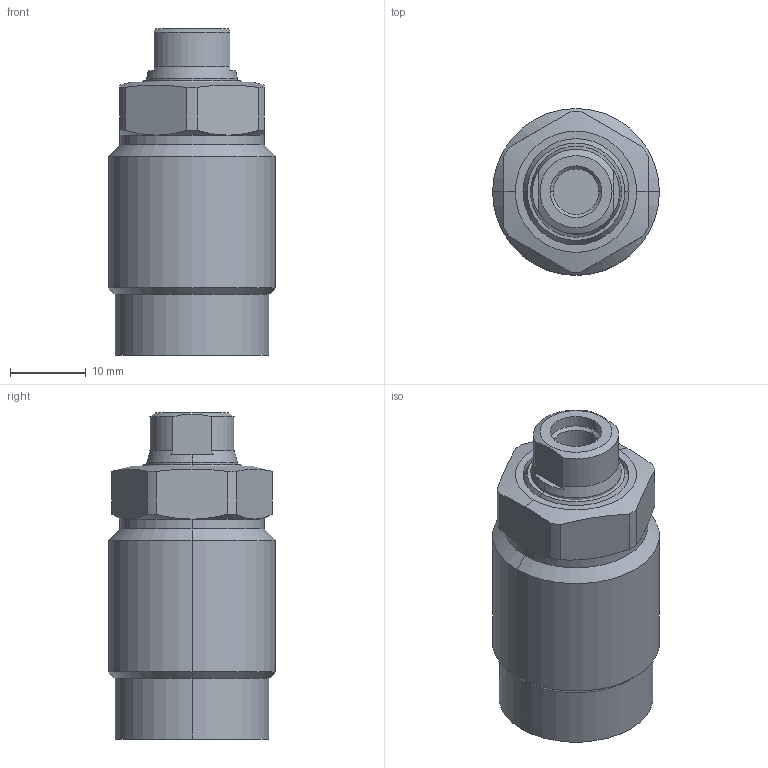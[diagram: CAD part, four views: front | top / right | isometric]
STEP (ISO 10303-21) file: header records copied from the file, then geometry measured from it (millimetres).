
FILE_DESCRIPTION((' '),'2;1');
FILE_NAME( 'TGP22-AM.x_t.stp', '2025-02-10T16:03:51', (' '), ('--- Datakit www.datakit.com---'), ' Datakit CrossCadWare V2024.1 Dec 21 2023', 'Mastercam 2025', ' ');
FILE_SCHEMA(('AUTOMOTIVE_DESIGN { 1 0 10303 214 1 1 1 1 }'));
Length unit declared in the file: millimetre
Products named in the file (1): TGP22-AM
Bounding box: 22 x 22 x 43 mm (x, y, z)
Volume: 13831.4 mm3; surface area: 4346.3 mm2
Topology: 2 solids, 2 shells, 82 faces, 189 edges, 118 vertices
Faces by surface type: cylinder 34, plane 22, cone 22, torus 4
Entity records: 2442 total; most frequent: CARTESIAN_POINT 536, DIRECTION 422, ORIENTED_EDGE 374, EDGE_CURVE 187, AXIS2_PLACEMENT_3D 180, VERTEX_POINT 118, CIRCLE 97, EDGE_LOOP 91
